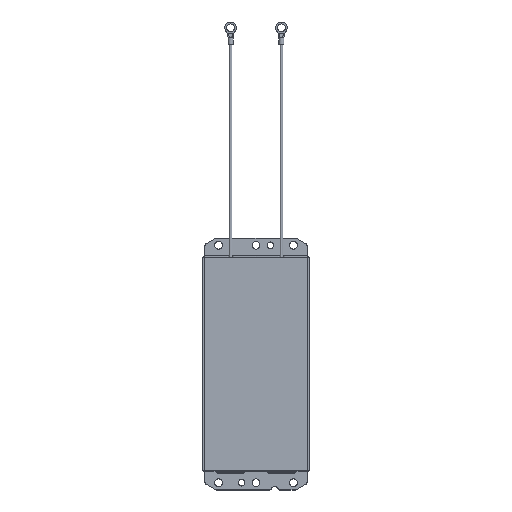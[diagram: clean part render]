
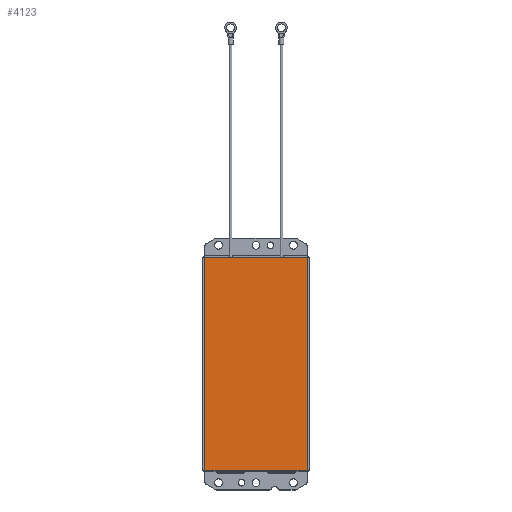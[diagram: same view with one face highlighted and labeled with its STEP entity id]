
A CAD part, top view. The second image highlights one B-rep face of the part: STEP entity #4123.
In plain terms, the highlighted planar face has unit normal (0, 0, 1).
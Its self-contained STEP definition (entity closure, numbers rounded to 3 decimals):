
#100=PLANE('',#4433);
#237=FACE_OUTER_BOUND('',#487,.T.);
#487=EDGE_LOOP('',(#2895,#2896,#2897,#2898,#2899,#2900,#2901,#2902,#2903,
#2904,#2905,#2906,#2907,#2908));
#773=LINE('',#6559,#1139);
#775=LINE('',#6565,#1141);
#778=LINE('',#6572,#1144);
#779=LINE('',#6576,#1145);
#780=LINE('',#6578,#1146);
#781=LINE('',#6580,#1147);
#782=LINE('',#6584,#1148);
#783=LINE('',#6588,#1149);
#784=LINE('',#6590,#1150);
#785=LINE('',#6591,#1151);
#1139=VECTOR('',#5070,10.);
#1141=VECTOR('',#5074,10.);
#1144=VECTOR('',#5081,10.);
#1145=VECTOR('',#5084,10.);
#1146=VECTOR('',#5085,10.);
#1147=VECTOR('',#5086,10.);
#1148=VECTOR('',#5089,10.);
#1149=VECTOR('',#5092,10.);
#1150=VECTOR('',#5093,10.);
#1151=VECTOR('',#5094,10.);
#1494=CIRCLE('',#4434,0.5);
#1495=CIRCLE('',#4435,0.5);
#1496=CIRCLE('',#4436,0.2);
#1497=CIRCLE('',#4437,0.2);
#1775=VERTEX_POINT('',#6555);
#1776=VERTEX_POINT('',#6557);
#1777=VERTEX_POINT('',#6561);
#1779=VERTEX_POINT('',#6564);
#1781=VERTEX_POINT('',#6570);
#1782=VERTEX_POINT('',#6573);
#1783=VERTEX_POINT('',#6575);
#1784=VERTEX_POINT('',#6577);
#1785=VERTEX_POINT('',#6579);
#1786=VERTEX_POINT('',#6581);
#1787=VERTEX_POINT('',#6583);
#1788=VERTEX_POINT('',#6585);
#1789=VERTEX_POINT('',#6587);
#1790=VERTEX_POINT('',#6589);
#2188=EDGE_CURVE('',#1776,#1775,#773,.T.);
#2190=EDGE_CURVE('',#1777,#1779,#775,.T.);
#2193=EDGE_CURVE('',#1775,#1781,#1494,.T.);
#2194=EDGE_CURVE('',#1779,#1776,#778,.T.);
#2195=EDGE_CURVE('',#1782,#1777,#1495,.T.);
#2196=EDGE_CURVE('',#1783,#1782,#779,.T.);
#2197=EDGE_CURVE('',#1784,#1783,#780,.T.);
#2198=EDGE_CURVE('',#1785,#1784,#781,.T.);
#2199=EDGE_CURVE('',#1786,#1785,#1496,.T.);
#2200=EDGE_CURVE('',#1787,#1786,#782,.T.);
#2201=EDGE_CURVE('',#1788,#1787,#1497,.T.);
#2202=EDGE_CURVE('',#1789,#1788,#783,.T.);
#2203=EDGE_CURVE('',#1790,#1789,#784,.T.);
#2204=EDGE_CURVE('',#1781,#1790,#785,.T.);
#2895=ORIENTED_EDGE('',*,*,#2193,.F.);
#2896=ORIENTED_EDGE('',*,*,#2188,.F.);
#2897=ORIENTED_EDGE('',*,*,#2194,.F.);
#2898=ORIENTED_EDGE('',*,*,#2190,.F.);
#2899=ORIENTED_EDGE('',*,*,#2195,.F.);
#2900=ORIENTED_EDGE('',*,*,#2196,.F.);
#2901=ORIENTED_EDGE('',*,*,#2197,.F.);
#2902=ORIENTED_EDGE('',*,*,#2198,.F.);
#2903=ORIENTED_EDGE('',*,*,#2199,.F.);
#2904=ORIENTED_EDGE('',*,*,#2200,.F.);
#2905=ORIENTED_EDGE('',*,*,#2201,.F.);
#2906=ORIENTED_EDGE('',*,*,#2202,.F.);
#2907=ORIENTED_EDGE('',*,*,#2203,.F.);
#2908=ORIENTED_EDGE('',*,*,#2204,.F.);
#4123=ADVANCED_FACE('',(#237),#100,.T.);
#4433=AXIS2_PLACEMENT_3D('',#6569,#5077,#5078);
#4434=AXIS2_PLACEMENT_3D('',#6571,#5079,#5080);
#4435=AXIS2_PLACEMENT_3D('',#6574,#5082,#5083);
#4436=AXIS2_PLACEMENT_3D('',#6582,#5087,#5088);
#4437=AXIS2_PLACEMENT_3D('',#6586,#5090,#5091);
#5070=DIRECTION('',(1.,0.,0.));
#5074=DIRECTION('',(1.,0.,0.));
#5077=DIRECTION('center_axis',(0.,0.,1.));
#5078=DIRECTION('ref_axis',(1.,0.,0.));
#5079=DIRECTION('center_axis',(0.,0.,-1.));
#5080=DIRECTION('ref_axis',(0.,1.,0.));
#5081=DIRECTION('',(1.,0.,0.));
#5082=DIRECTION('center_axis',(0.,0.,-1.));
#5083=DIRECTION('ref_axis',(0.,1.,0.));
#5084=DIRECTION('',(0.,1.,0.));
#5085=DIRECTION('',(-1.,0.,0.));
#5086=DIRECTION('',(0.,1.,0.));
#5087=DIRECTION('center_axis',(0.,0.,1.));
#5088=DIRECTION('ref_axis',(0.707,0.707,0.));
#5089=DIRECTION('',(-1.,0.,0.));
#5090=DIRECTION('center_axis',(0.,0.,1.));
#5091=DIRECTION('ref_axis',(-0.707,0.707,0.));
#5092=DIRECTION('',(0.,-1.,0.));
#5093=DIRECTION('',(-1.,0.,0.));
#5094=DIRECTION('',(0.,-1.,0.));
#6555=CARTESIAN_POINT('',(35.958,73.7,9.4));
#6557=CARTESIAN_POINT('',(35.5,73.7,9.4));
#6559=CARTESIAN_POINT('',(35.5,73.7,9.4));
#6561=CARTESIAN_POINT('',(-35.958,73.7,9.4));
#6564=CARTESIAN_POINT('',(-35.5,73.7,9.4));
#6565=CARTESIAN_POINT('',(35.5,73.7,9.4));
#6569=CARTESIAN_POINT('Origin',(36.,73.5,9.4));
#6570=CARTESIAN_POINT('',(36.,73.5,9.4));
#6571=CARTESIAN_POINT('Origin',(35.5,73.5,9.4));
#6572=CARTESIAN_POINT('',(36.,73.7,9.4));
#6573=CARTESIAN_POINT('',(-36.,73.5,9.4));
#6574=CARTESIAN_POINT('Origin',(-35.5,73.5,9.4));
#6575=CARTESIAN_POINT('',(-36.,72.5,9.4));
#6576=CARTESIAN_POINT('',(-36.,36.75,9.4));
#6577=CARTESIAN_POINT('',(-35.7,72.5,9.4));
#6578=CARTESIAN_POINT('',(0.15,72.5,9.4));
#6579=CARTESIAN_POINT('',(-35.7,-73.5,9.4));
#6580=CARTESIAN_POINT('',(-35.7,36.75,9.4));
#6581=CARTESIAN_POINT('',(-35.5,-73.7,9.4));
#6582=CARTESIAN_POINT('Origin',(-35.7,-73.7,9.4));
#6583=CARTESIAN_POINT('',(35.5,-73.7,9.4));
#6584=CARTESIAN_POINT('',(36.,-73.7,9.4));
#6585=CARTESIAN_POINT('',(35.7,-73.5,9.4));
#6586=CARTESIAN_POINT('Origin',(35.7,-73.7,9.4));
#6587=CARTESIAN_POINT('',(35.7,72.5,9.4));
#6588=CARTESIAN_POINT('',(35.7,36.75,9.4));
#6589=CARTESIAN_POINT('',(36.,72.5,9.4));
#6590=CARTESIAN_POINT('',(36.,72.5,9.4));
#6591=CARTESIAN_POINT('',(36.,36.75,9.4));
